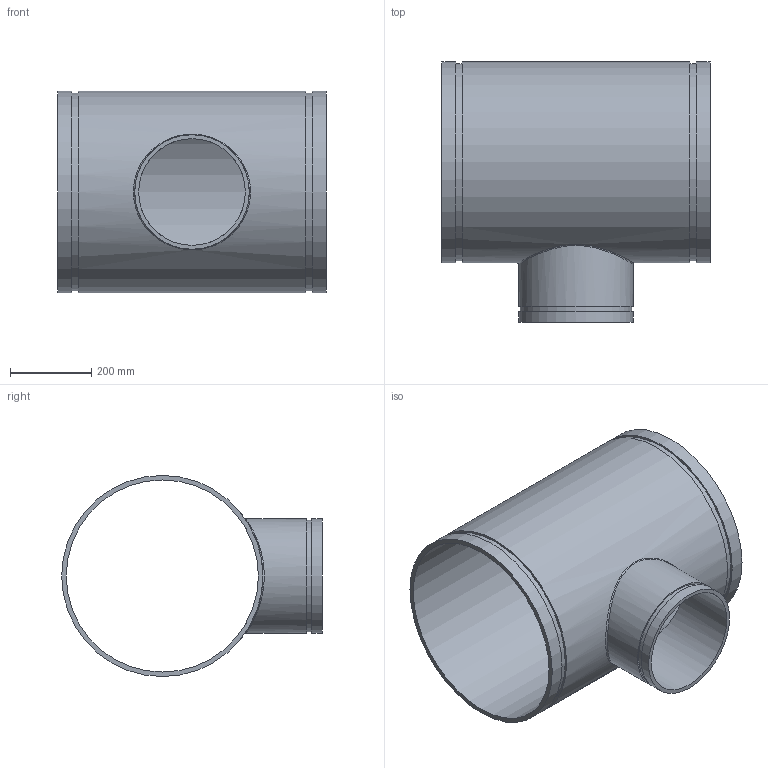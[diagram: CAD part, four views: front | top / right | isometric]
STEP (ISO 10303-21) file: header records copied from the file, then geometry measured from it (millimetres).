
FILE_DESCRIPTION(/* description */ ('VIC REDUCING TEE No 25-C','CAx-IF Rec.Pracs.---Representation and Presentation of Product Manufacturing Information (PMI)---4.0---2014-10-13'),/* implementation_level */ '2;1');
FILE_NAME(/* name */ 'C:\Users\Vjadhav\AppData\Roaming\Autodesk\ApplicationPlugins\Back Up\Victaulic_AWWA_Tee Reducing_No 25-C (DRG)\Victaulic_AWWA_Tee Reducing_No 25-C (DRG)_18.0x10.0 (450x250).stp',/* time_stamp */ '2020-08-18T18:18:26+06:00',/* author */ ('CORINNE GRAY'),/* organization */ ('Victaulic'),/* preprocessor_version */ 'ST-DEVELOPER v17.2',/* originating_system */ 'Autodesk Inventor 2019',/* authorisation */ '');
FILE_SCHEMA (('AP242_MANAGED_MODEL_BASED_3D_ENGINEERING_MIM_LF { 1 0 10303 442 1 1 4 }'));
Length unit declared in the file: inch
Products named in the file (1): 25C-18.0x10.0
Bounding box: 660.4 x 641.35 x 495.3 mm (x, y, z)
Volume: 11693744.3 mm3; surface area: 2257197 mm2
Topology: 1 solids, 1 shells, 20 faces, 44 edges, 33 vertices
Faces by surface type: cylinder 10, plane 9, bspline 1
Full cylindrical faces by diameter (mm): 262.636 x1, 274.65 x1, 281.94 x2, 472.948 x1, 485.775 x2, 495.3 x3
Entity records: 1045 total; most frequent: CARTESIAN_POINT 421, DIRECTION 135, ORIENTED_EDGE 90, AXIS2_PLACEMENT_3D 62, EDGE_CURVE 45, VERTEX_POINT 34, EDGE_LOOP 31, CIRCLE 29
